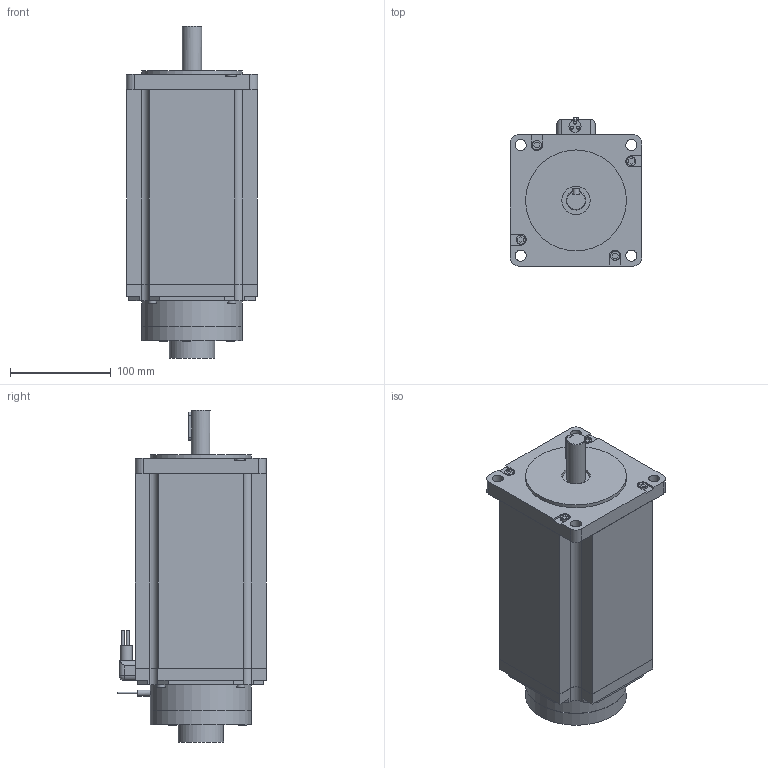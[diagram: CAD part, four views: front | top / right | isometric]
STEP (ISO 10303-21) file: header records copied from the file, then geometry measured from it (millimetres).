
FILE_DESCRIPTION(/* description */ (''),/* implementation_level */ '2;1');
FILE_NAME(/* name */ 'UB130D24-D50-3220.stp',/* time_stamp */ '2018-08-21T08:58:40+08:00',/* author */ (''),/* organization */ (''),/* preprocessor_version */ 'ST-DEVELOPER v11',/* originating_system */ 'SIEMENS UGS NX 6.0',/* authorisation */ '');
FILE_SCHEMA (('CONFIG_CONTROL_DESIGN'));
Length unit declared in the file: millimetre
Products named in the file (1): UB130D24-D50-3220
Bounding box: 130 x 147.5 x 329 mm (x, y, z)
Volume: 3747241.9 mm3; surface area: 184707.2 mm2
Topology: 2 solids, 6 shells, 235 faces, 576 edges, 388 vertices
Faces by surface type: plane 167, cylinder 65, sphere 2, torus 1
Full cylindrical faces by diameter (mm): 1.5 x2, 3 x3, 4 x6, 6 x1, 8 x10, 9 x4, 11 x4, 12 x1, 19 x1, 28 x1, 45 x2, 100 x3
Entity records: 6704 total; most frequent: CARTESIAN_POINT 1230, DIRECTION 1106, ORIENTED_EDGE 1022, EDGE_CURVE 511, LINE 380, VECTOR 380, VERTEX_POINT 363, AXIS2_PLACEMENT_3D 363
